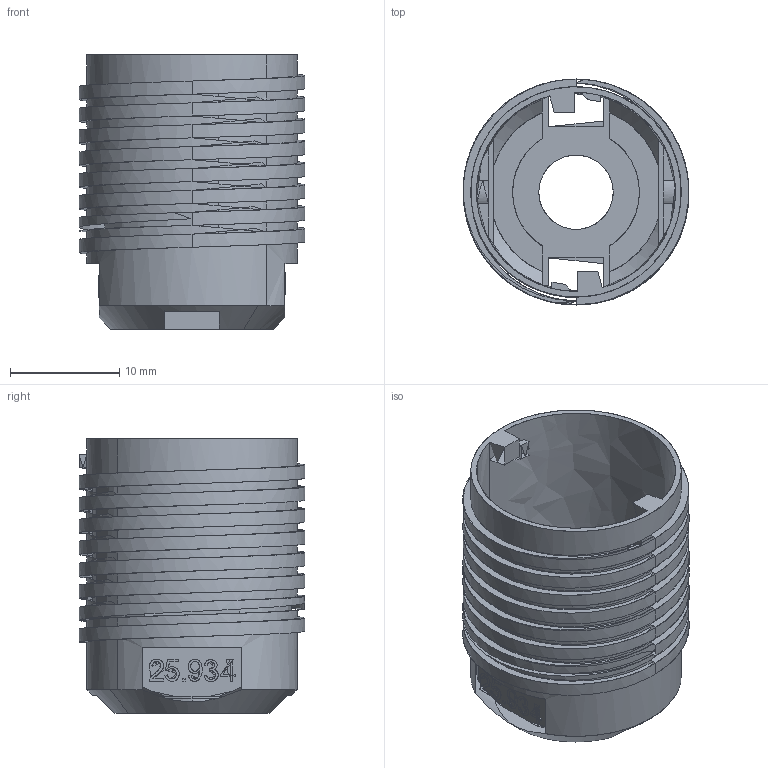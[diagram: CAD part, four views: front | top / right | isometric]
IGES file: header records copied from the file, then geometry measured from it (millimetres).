
Global section: file name: C:\Programme\core_technologie\in\012Y000Y0A.igs; native system: CT CoreTechnologie 3D Evolution; preprocessor: 2006; author: assmuth; date: 080418.101536; units: millimetre
Bounding box: 20.65 x 20.65 x 25.1 mm (x, y, z)
Surface area: 4605.1 mm2 (no closed solid volume)
Topology: 0 solids, 0 shells, 282 faces, 1386 edges, 1368 vertices
Faces by surface type: bspline 282
